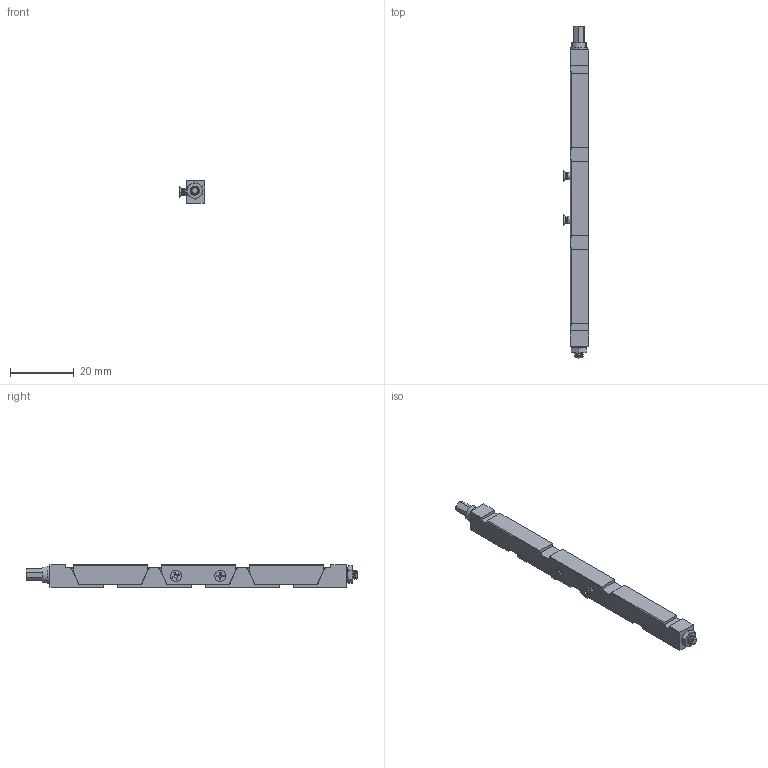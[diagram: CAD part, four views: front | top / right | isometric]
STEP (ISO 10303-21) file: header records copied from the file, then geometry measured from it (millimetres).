
FILE_DESCRIPTION (( 'STEP AP203' ), '1' );
FILE_NAME ('250-07 1-64 Side A.STEP', '2022-08-19T15:46:21', ( '' ), ( '' ), 'SwSTEP 2.0', 'SolidWorks 2021', '' );
FILE_SCHEMA (( 'CONFIG_CONTROL_DESIGN' ));
Length unit declared in the file: inch
Products named in the file (10): NAS620C4; IL-250#-RW; 250-07 1-64 Side A; IL-250#-LW; IL-250#-MOW; IL-250#-MAW; NAS671C4; U-164-0; FLAT HEAD PHILLIPS MACHINE SCREW SS; IL-250TB_7
Assembly tree (14 placements, depth 2):
  250-07 1-64 Side A
    IL-250#-MAW  x4
    IL-250#-MOW
    IL-250#-RW
    IL-250#-LW
    NAS620C4
    IL-250TB_7
    FLAT HEAD PHILLIPS MACHINE SCREW SS  x2
    U-164-0  x2
    NAS671C4
Bounding box: 8.13 x 104.39 x 7.02 mm (x, y, z)
Volume: 3219.8 mm3; surface area: 5872.5 mm2
Topology: 14 solids, 14 shells, 477 faces, 1269 edges, 828 vertices
Faces by surface type: cylinder 213, plane 182, cone 54, bspline 28
Entity records: 17137 total; most frequent: CARTESIAN_POINT 8593, ORIENTED_EDGE 1772, DIRECTION 1294, EDGE_CURVE 886, VERTEX_POINT 580, AXIS2_PLACEMENT_3D 451, LINE 392, VECTOR 392
